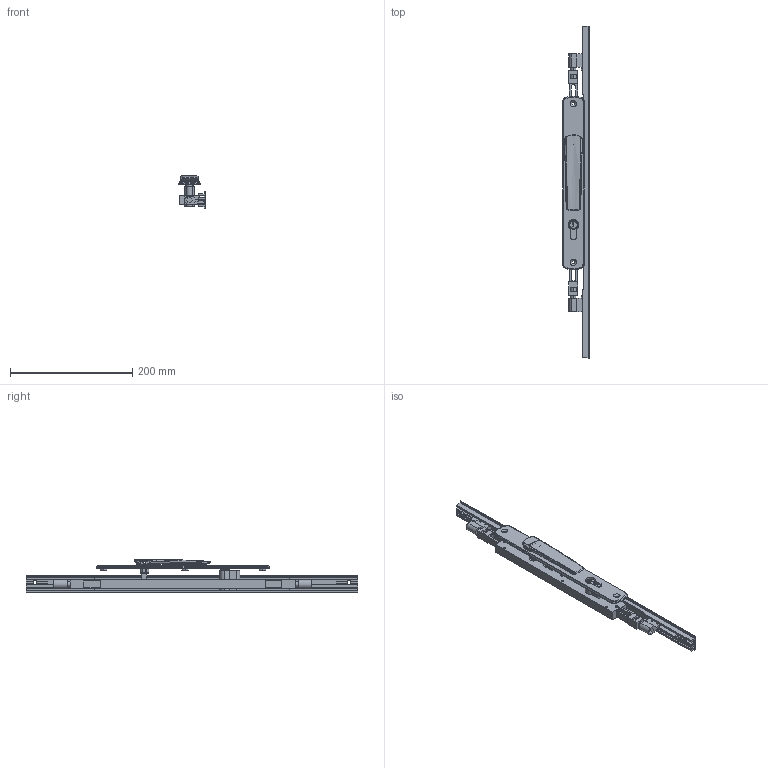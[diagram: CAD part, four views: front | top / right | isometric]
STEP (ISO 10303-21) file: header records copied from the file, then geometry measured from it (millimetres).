
FILE_DESCRIPTION (( 'STEP AP214' ), '1' );
FILE_NAME ('TPL-W-EU-619-L 06Nov2024.STEP', '2024-11-27T04:03:13', ( '' ), ( '' ), 'SwSTEP 2.0', 'SolidWorks 2023', '' );
FILE_SCHEMA (( 'AUTOMOTIVE_DESIGN' ));
Length unit declared in the file: millimetre
Products named in the file (19): Copy of Adapter CnE - simplfied^TPL-W-EU-119 04Nov2024_26mm backset; TPL-W-EU-619-L 06Nov2024; Bolt.step; Copy of COV-112-C Cover C TPLGen2 Lock body^TPL-W-EU-119 04Nov2024; Copy of COV-112-B Cover B suit TPLGen2 standard range^TPL-W-EU-119 04Nov2024_2870mm; Copy of TPLGen2 push rod - simplified^Copy of TPLGen2 lock body keyed assembly_TPL-W-EU-119 04Nov2024_Female thread M10; Copy of LKC-531 Lock twinpoint transmission rod wood system^TPL-W-EU-119 04Nov2024_Standard Range (588.7mm); Copy of LKC-505 Swing handle zinc - simplified^Copy of TPGen2 handle keyed internal zinc - simplified_TPL-W-EU-119 04Nov2024; Copy of COV-112-A Cover A suit TPLGen2 standard range^TPL-W-EU-119 04Nov2024_1335mm; Copy of TPGen2 handle keyed internal zinc - simplified^TPL-W-EU-119 04Nov2024_Vertical; Copy of TPLGen2 lock body keyed assembly^TPL-W-EU-119 04Nov2024_Bolts extended; Copy of LKC-512 Escutcheon plate keyed internal 285mm long zinc - simplified^Copy of TPGen2 handle keyed internal zinc - simplified_TPL-W-EU-119 04Nov2024; Copy of TPLGen2 lock body keyed^Copy of TPLGen2 lock body keyed assembly_TPL-W-EU-119 04Nov2024; Copy of TPL-W-EU-130 04Nov2024^TPL-W-EU-119 04Nov2024_TPL-022 Left; Copy of Adapter DnF - simplfied^TPL-W-EU-119 04Nov2024_26mm backset; Copy of Copy of LKC-531 Lock twinpoint transmission rod wood system^TPL-W-EU-119 04Nov2024_Standard Range 2891.7mm; Copy of LKC-586 Spindle square 8mm with M4 hole^Copy of TPGen2 handle keyed internal zinc - simplified_TPL-W-EU-119 04Nov2024_25mm; Copy of LKC-585 Rotator body zinc^Copy of TPGen2 handle keyed internal zinc - simplified_TPL-W-EU-119 04Nov2024; Copy of LKC-584 Pivot body zinc - simplified^Copy of TPGen2 handle keyed internal zinc - simplified_TPL-W-EU-119 04Nov2024
Assembly tree (16 placements, depth 3):
  TPL-W-EU-619-L 06Nov2024
    Copy of TPLGen2 lock body keyed assembly^TPL-W-EU-119 04Nov2024_Bolts extended
      Copy of TPLGen2 lock body keyed^Copy of TPLGen2 lock body keyed assembly_TPL-W-EU-119 04Nov2024
      Copy of TPLGen2 push rod - simplified^Copy of TPLGen2 lock body keyed assembly_TPL-W-EU-119 04Nov2024_Female thread M10  x2
    Copy of TPGen2 handle keyed internal zinc - simplified^TPL-W-EU-119 04Nov2024_Vertical
      Copy of LKC-512 Escutcheon plate keyed internal 285mm long zinc - simplified^Copy of TPGen2 handle keyed internal zinc - simplified_TPL-W-EU-119 04Nov2024
      Copy of LKC-505 Swing handle zinc - simplified^Copy of TPGen2 handle keyed internal zinc - simplified_TPL-W-EU-119 04Nov2024
      Copy of LKC-585 Rotator body zinc^Copy of TPGen2 handle keyed internal zinc - simplified_TPL-W-EU-119 04Nov2024
      Copy of LKC-586 Spindle square 8mm with M4 hole^Copy of TPGen2 handle keyed internal zinc - simplified_TPL-W-EU-119 04Nov2024_25mm
      Copy of LKC-584 Pivot body zinc - simplified^Copy of TPGen2 handle keyed internal zinc - simplified_TPL-W-EU-119 04Nov2024
    Copy of TPL-W-EU-130 04Nov2024^TPL-W-EU-119 04Nov2024_TPL-022 Left
    Copy of COV-112-C Cover C TPLGen2 Lock body^TPL-W-EU-119 04Nov2024
    Copy of LKC-531 Lock twinpoint transmission rod wood system^TPL-W-EU-119 04Nov2024_Standard Range (588.7mm)
    Copy of Copy of LKC-531 Lock twinpoint transmission rod wood system^TPL-W-EU-119 04Nov2024_Standard Range 2891.7mm
    Copy of Adapter CnE - simplfied^TPL-W-EU-119 04Nov2024_26mm backset
    Copy of Adapter DnF - simplfied^TPL-W-EU-119 04Nov2024_26mm backset
  Bolt.step
  Copy of COV-112-B Cover B suit TPLGen2 standard range^TPL-W-EU-119 04Nov2024_2870mm
  Copy of COV-112-A Cover A suit TPLGen2 standard range^TPL-W-EU-119 04Nov2024_1335mm
Bounding box: 43.5 x 544 x 53.86 mm (x, y, z)
Volume: 281244 mm3; surface area: 138721.9 mm2
Topology: 14 solids, 14 shells, 921 faces, 2293 edges, 1430 vertices
Faces by surface type: plane 325, bspline 241, cylinder 230, cone 71, torus 46, sphere 8
Entity records: 33110 total; most frequent: CARTESIAN_POINT 13052, ORIENTED_EDGE 4394, DIRECTION 3632, EDGE_CURVE 2197, VERTEX_POINT 1370, AXIS2_PLACEMENT_3D 1336, EDGE_LOOP 985, LINE 960
